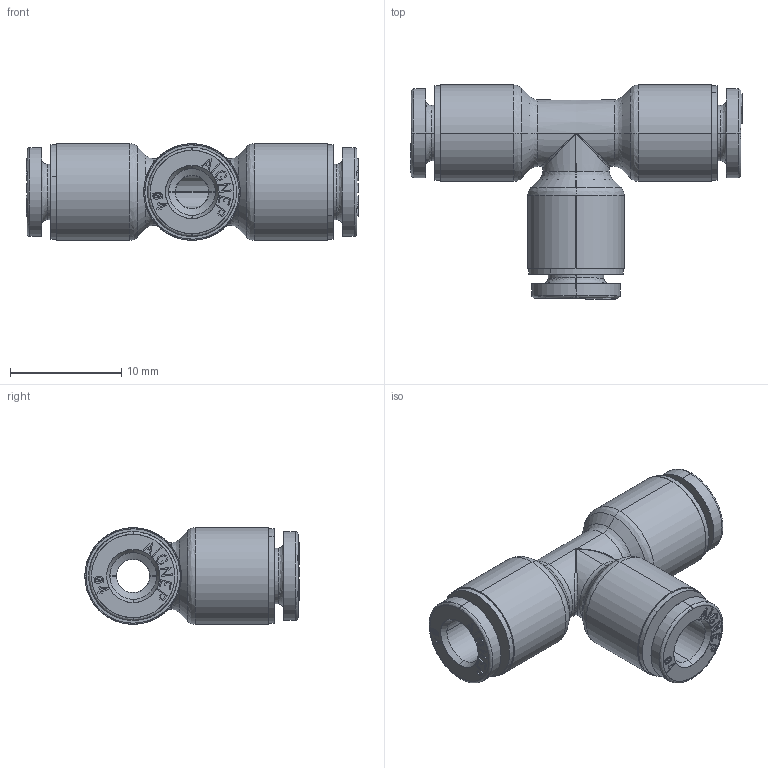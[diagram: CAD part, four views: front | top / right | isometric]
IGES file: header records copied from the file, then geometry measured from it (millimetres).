
Start section: SolidWorks IGES file using analytic representation for surfaces
Global section: file name: K:\Disegni Esecutivi\SERIE 54000\54000-Assiemi\54230\IGES\5423000002A.IGS; native system: SolidWorks 2020; preprocessor: SolidWorks 2020; author: CAD13; date: 240920.121926; units: millimetre
Bounding box: 29.9 x 19.3 x 8.7 mm (x, y, z)
Surface area: 1887.3 mm2 (no closed solid volume)
Topology: 0 solids, 0 shells, 686 faces, 5095 edges, 5091 vertices
Faces by surface type: bspline 629, revolution 57
